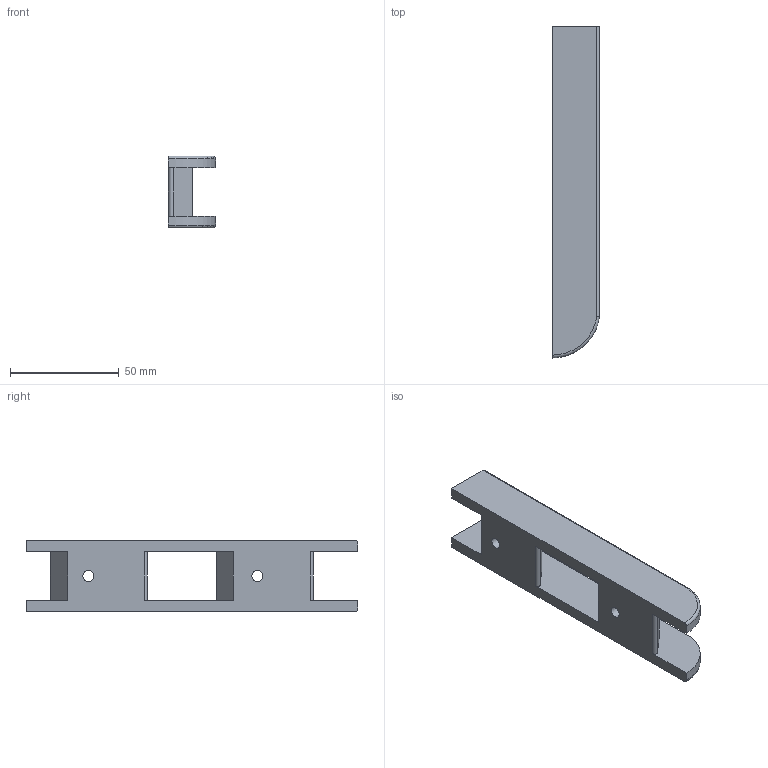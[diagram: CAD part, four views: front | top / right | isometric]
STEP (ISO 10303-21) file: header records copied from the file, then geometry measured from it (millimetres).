
FILE_DESCRIPTION(/* description */ ('STEP AP242','CAx-IF Rec.Pracs.---Representation and Presentation of Product Manufacturing Information (PMI)---4.0---2014-10-13','CAx-IF Rec.Pracs.---3D Tessellated Geometry---0.4---2014-09-14','2;1'),/* implementation_level */ '2;1');
FILE_NAME(/* name */ '677e1372248f3576865290fc',/* time_stamp */ '2025-01-08T05:56:02Z',/* author */ (''),/* organization */ (''),/* preprocessor_version */ 'ST-DEVELOPER v20',/* originating_system */ 'ONSHAPE BY PTC INC, 1.191',/* authorisation */ ' ');
FILE_SCHEMA (('AP242_MANAGED_MODEL_BASED_3D_ENGINEERING_MIM_LF { 1 0 10303 442 1 1 4 }'));
Length unit declared in the file: metre
Products named in the file (1): Wall Bracket-6
Bounding box: 21.59 x 152.4 x 33.05 mm (x, y, z)
Volume: 51344.2 mm3; surface area: 19405.4 mm2
Topology: 1 solids, 1 shells, 33 faces, 88 edges, 58 vertices
Faces by surface type: plane 17, cylinder 12, torus 2, cone 2
Full cylindrical faces by diameter (mm): 5.08 x2, 12.7 x2
Entity records: 1024 total; most frequent: CARTESIAN_POINT 178, DIRECTION 174, ORIENTED_EDGE 160, EDGE_CURVE 80, AXIS2_PLACEMENT_3D 62, VERTEX_POINT 56, LINE 50, VECTOR 50
